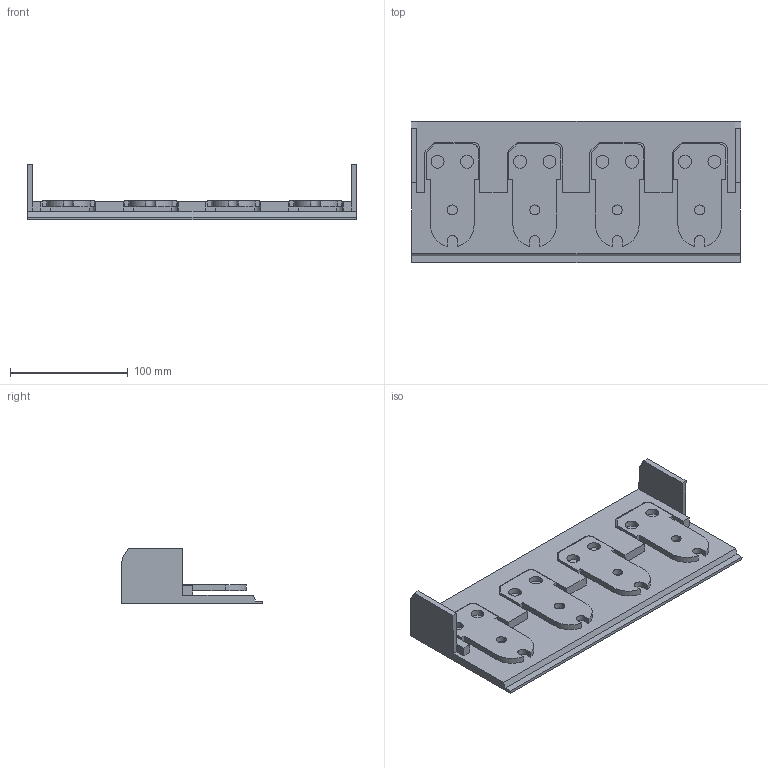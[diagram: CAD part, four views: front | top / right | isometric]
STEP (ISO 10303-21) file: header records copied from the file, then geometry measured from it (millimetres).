
FILE_DESCRIPTION((''),'2;1');
FILE_NAME('SB101729_3D-SIMPLIFIED_ASM','2018-04-11T',('danae.lavaud'),(''),'PRO/ENGINEER BY PARAMETRIC TECHNOLOGY CORPORATION, 2014090','PRO/ENGINEER BY PARAMETRIC TECHNOLOGY CORPORATION, 2014090','');
FILE_SCHEMA(('CONFIG_CONTROL_DESIGN'));
Length unit declared in the file: millimetre
Products named in the file (4): PRISE_AVANT_4P_1_1; CONNECTEUR_PRISE_1_1; SB101729_3D-SIMPLIFIED_ASM_1_ASM; SB101729_3D-SIMPLIFIED_ASM
Assembly tree (6 placements, depth 3):
  SB101729_3D-SIMPLIFIED_ASM
    SB101729_3D-SIMPLIFIED_ASM_1_ASM
      PRISE_AVANT_4P_1_1
      CONNECTEUR_PRISE_1_1  x4
Bounding box: 279.99 x 120.1 x 47.5 mm (x, y, z)
Volume: 386230.8 mm3; surface area: 117983.4 mm2
Topology: 5 solids, 5 shells, 132 faces, 364 edges, 242 vertices
Faces by surface type: plane 88, cylinder 44
Entity records: 2266 total; most frequent: CARTESIAN_POINT 389, DIRECTION 373, ORIENTED_EDGE 368, EDGE_CURVE 184, VECTOR 155, LINE 155, VERTEX_POINT 122, AXIS2_PLACEMENT_3D 109
